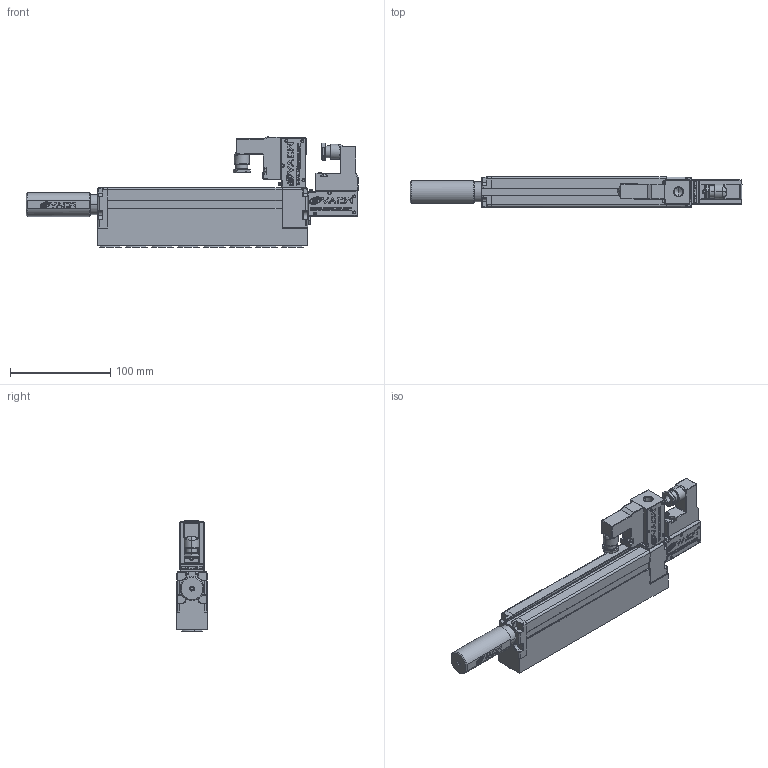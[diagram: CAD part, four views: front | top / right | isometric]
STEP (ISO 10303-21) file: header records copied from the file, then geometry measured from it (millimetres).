
FILE_DESCRIPTION (( 'STEP AP203' ), '1' );
FILE_NAME ('G30x210-VAB25梒赶柲攫.STEP', '2021-03-03T02:50:25', ( '' ), ( '' ), 'SwSTEP 2.0', 'SolidWorks 2014', '' );
FILE_SCHEMA (( 'CONFIG_CONTROL_DESIGN' ));
Length unit declared in the file: millimetre
Products named in the file (6): Part-4; G30x210-VAB25梒赶柲攫; Part-3; Part-1; Part-2; Part-5
Assembly tree (6 placements, depth 2):
  G30x210-VAB25梒赶柲攫
    Part-1
    Part-2  x2
    Part-3
    Part-4
    Part-5
Bounding box: 331.97 x 30 x 110.02 mm (x, y, z)
Volume: 474755.1 mm3; surface area: 83860.7 mm2
Topology: 6 solids, 10 shells, 2655 faces, 6896 edges, 4372 vertices
Faces by surface type: plane 1258, bspline 807, cylinder 358, cone 92, torus 76, sphere 64
Entity records: 55882 total; most frequent: CARTESIAN_POINT 20119, ORIENTED_EDGE 8616, DIRECTION 5055, EDGE_CURVE 4308, VERTEX_POINT 2763, VECTOR 2613, LINE 2613, EDGE_LOOP 1793
